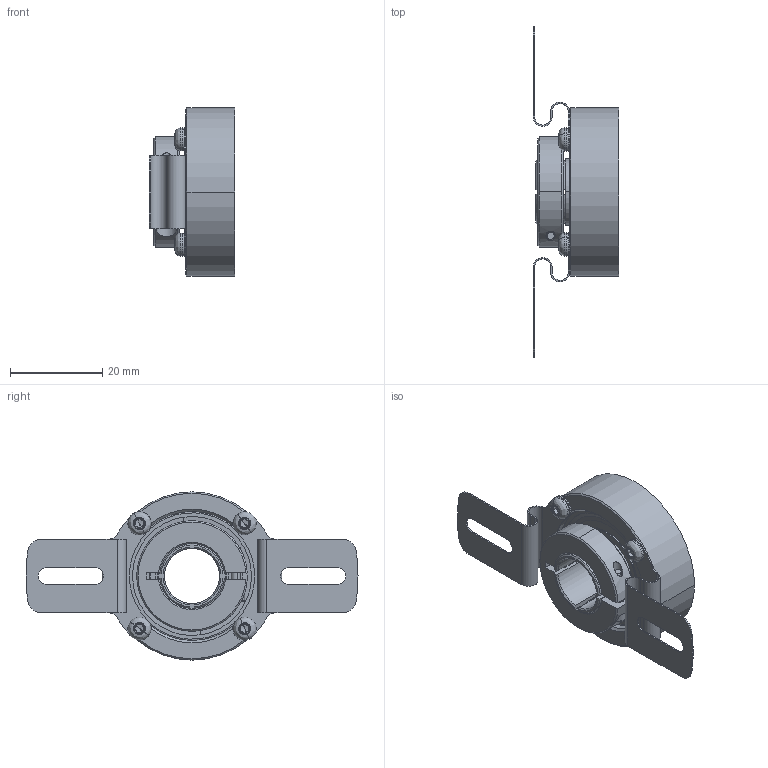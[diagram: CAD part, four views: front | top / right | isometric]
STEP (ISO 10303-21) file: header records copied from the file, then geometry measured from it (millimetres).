
FILE_DESCRIPTION (( 'STEP AP214' ), '1' );
FILE_NAME ('drawing-ucd-vcb0-q3a-n.STEP', '2017-01-23T10:04:15', ( '' ), ( '' ), 'SwSTEP 2.0', 'SolidWorks 2015', '' );
FILE_SCHEMA (( 'AUTOMOTIVE_DESIGN' ));
Length unit declared in the file: millimetre
Products named in the file (1): drawing-ucd-vcb0-q3a-n
Bounding box: 18.5 x 72 x 36.5 mm (x, y, z)
Volume: 9603.2 mm3; surface area: 14496.6 mm2
Topology: 27 solids, 27 shells, 567 faces, 1413 edges, 842 vertices
Faces by surface type: cylinder 183, cone 142, plane 134, bspline 104, torus 4
Entity records: 25865 total; most frequent: CARTESIAN_POINT 6480, DIRECTION 2754, ORIENTED_EDGE 2662, EDGE_CURVE 1331, AXIS2_PLACEMENT_3D 1166, VERTEX_POINT 842, CIRCLE 702, EDGE_LOOP 625
